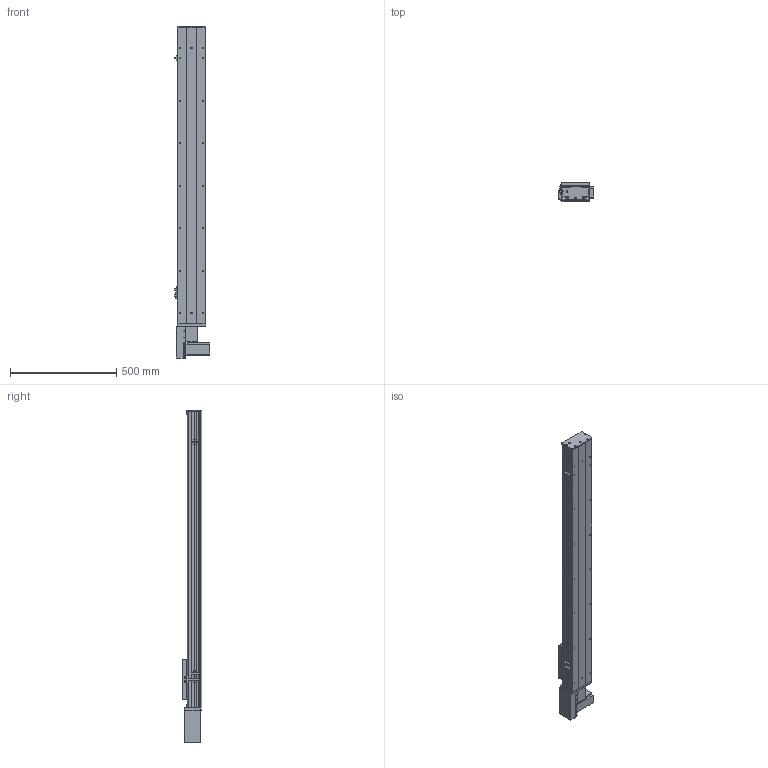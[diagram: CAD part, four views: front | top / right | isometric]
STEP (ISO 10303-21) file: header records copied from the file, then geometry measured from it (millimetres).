
FILE_DESCRIPTION (( 'STEP AP203' ), '1' );
FILE_NAME ('Y135CB-D90-S1100-BR-P400W.STEP', '2020-02-18T02:31:26', ( '微软用户' ), ( '微软中国' ), 'SwSTEP 2.0', 'SolidWorks 2017', '' );
FILE_SCHEMA (( 'CONFIG_CONTROL_DESIGN' ));
Length unit declared in the file: millimetre
Products named in the file (18): Y10B--々湍喘謫眊--666; Y10B-耜蚾蟀諉啣----; Y135CB-D90-S1100-BR-P400W; Y俋欶BR----; 0B-埴倛裔啣; 0B-源倛裔啣; 135CB--詩湍-CE; 0B-萇儂楊擘啣; Y100-135俋离換覜ん--; san松下电机400不带刹车----; Y135C-陔俋离換覜結え-; Y135CB-耜裔; 5CB --掛极耜裔啣-; 5C--俋欶; 135CB---遴掛极.-; C-詩湍揤踡え-陔; C-雄赽釱--; 35CB---喘謫眊楊擘啣
Assembly tree (21 placements, depth 2):
  Y135CB-D90-S1100-BR-P400W
    Y135CB-耜裔
    135CB---遴掛极.-
    35CB---喘謫眊楊擘啣
    Y10B-耜蚾蟀諉啣----
    Y俋欶BR----
    0B-埴倛裔啣
    0B-源倛裔啣
    0B-萇儂楊擘啣
    san松下电机400不带刹车----
    5CB --掛极耜裔啣-  x2
    C-詩湍揤踡え-陔  x2
    135CB--詩湍-CE
    Y100-135俋离換覜ん--  x3
    Y135C-陔俋离換覜結え-
    5C--俋欶
    C-雄赽釱--
    Y10B--々湍喘謫眊--666
Bounding box: 167.5 x 91 x 1564.5 mm (x, y, z)
Volume: 4646879.6 mm3; surface area: 1821629.5 mm2
Topology: 21 solids, 21 shells, 949 faces, 2545 edges, 1686 vertices
Faces by surface type: cylinder 475, plane 458, cone 16
Entity records: 29543 total; most frequent: DIRECTION 4905, CARTESIAN_POINT 4856, ORIENTED_EDGE 4566, EDGE_CURVE 2283, AXIS2_PLACEMENT_3D 1787, VERTEX_POINT 1514, VECTOR 1331, LINE 1331
